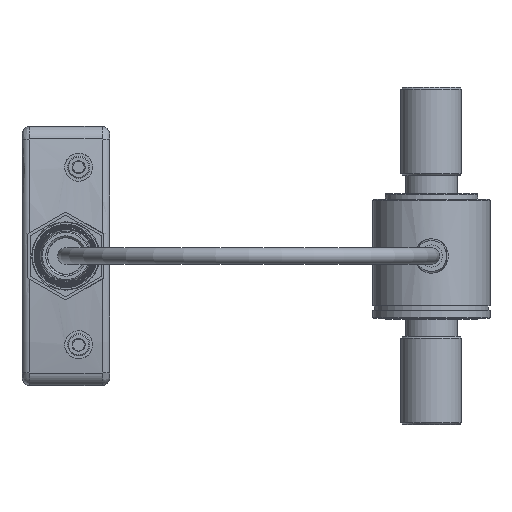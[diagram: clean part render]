
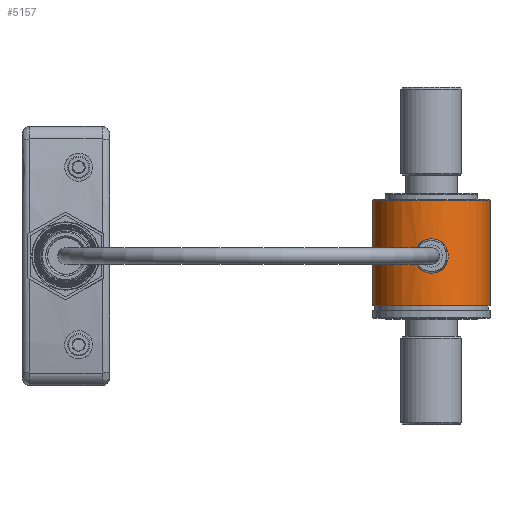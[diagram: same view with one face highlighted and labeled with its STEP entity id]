
A CAD part, left-side view. The second image highlights one B-rep face of the part: STEP entity #5157.
In plain terms, the highlighted cylindrical face has radius 12.205 mm (diameter 24.409 mm), a full revolution.
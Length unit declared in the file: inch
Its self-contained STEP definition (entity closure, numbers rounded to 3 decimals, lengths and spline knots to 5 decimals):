
#149=B_SPLINE_CURVE_WITH_KNOTS('',3,(#7361,#7362,#7363,#7364,#7365,#7366,
#7367,#7368,#7369,#7370,#7371,#7372,#7373,#7374),.UNSPECIFIED.,.F.,.F.,
(4,2,2,2,2,2,4),(0.,0.05595,0.11066,0.16193,
0.21462,0.24901,0.28232),.UNSPECIFIED.);
#150=B_SPLINE_CURVE_WITH_KNOTS('',3,(#7553,#7554,#7555,#7556,#7557,#7558,
#7559,#7560,#7561,#7562,#7563,#7564,#7565,#7566),.UNSPECIFIED.,.F.,.F.,
(4,2,2,2,2,2,4),(0.,0.05595,0.11066,0.16193,
0.21462,0.24901,0.28232),.UNSPECIFIED.);
#414=FACE_BOUND('',#1525,.T.);
#445=LINE('',#7342,#749);
#458=LINE('',#7541,#762);
#470=LINE('',#7636,#774);
#749=VECTOR('',#6019,1.);
#762=VECTOR('',#6076,1.);
#774=VECTOR('',#6162,0.4805);
#1060=CYLINDRICAL_SURFACE('',#5543,0.4805);
#1170=FACE_OUTER_BOUND('',#1524,.T.);
#1524=EDGE_LOOP('',(#3535,#3536,#3537,#3538,#3539));
#1525=EDGE_LOOP('',(#3540,#3541,#3542,#3543));
#1898=CIRCLE('',#5539,0.4805);
#1899=CIRCLE('',#5540,0.4805);
#1901=CIRCLE('',#5544,0.4805);
#2107=VERTEX_POINT('',#7340);
#2108=VERTEX_POINT('',#7341);
#2111=VERTEX_POINT('',#7360);
#2128=VERTEX_POINT('',#7540);
#2147=VERTEX_POINT('',#7626);
#2148=VERTEX_POINT('',#7628);
#2150=VERTEX_POINT('',#7635);
#2602=EDGE_CURVE('',#2107,#2108,#445,.T.);
#2606=EDGE_CURVE('',#2111,#2107,#149,.T.);
#2634=EDGE_CURVE('',#2128,#2111,#458,.T.);
#2636=EDGE_CURVE('',#2108,#2128,#150,.T.);
#2665=EDGE_CURVE('',#2147,#2148,#1898,.T.);
#2666=EDGE_CURVE('',#2148,#2147,#1899,.T.);
#2668=EDGE_CURVE('',#2148,#2150,#470,.T.);
#2669=EDGE_CURVE('',#2150,#2150,#1901,.T.);
#3535=ORIENTED_EDGE('',*,*,#2665,.F.);
#3536=ORIENTED_EDGE('',*,*,#2666,.F.);
#3537=ORIENTED_EDGE('',*,*,#2668,.T.);
#3538=ORIENTED_EDGE('',*,*,#2669,.F.);
#3539=ORIENTED_EDGE('',*,*,#2668,.F.);
#3540=ORIENTED_EDGE('',*,*,#2606,.T.);
#3541=ORIENTED_EDGE('',*,*,#2602,.T.);
#3542=ORIENTED_EDGE('',*,*,#2636,.T.);
#3543=ORIENTED_EDGE('',*,*,#2634,.T.);
#5157=ADVANCED_FACE('',(#1170,#414),#1060,.T.);
#5539=AXIS2_PLACEMENT_3D('',#7629,#6152,#6153);
#5540=AXIS2_PLACEMENT_3D('',#7630,#6154,#6155);
#5543=AXIS2_PLACEMENT_3D('',#7634,#6160,#6161);
#5544=AXIS2_PLACEMENT_3D('',#7637,#6163,#6164);
#6019=DIRECTION('',(0.,0.,-1.));
#6076=DIRECTION('',(0.,0.,1.));
#6152=DIRECTION('center_axis',(0.,0.,
1.));
#6153=DIRECTION('ref_axis',(1.,0.,0.));
#6154=DIRECTION('center_axis',(0.,0.,
1.));
#6155=DIRECTION('ref_axis',(1.,0.,0.));
#6160=DIRECTION('center_axis',(0.,0.,
1.));
#6161=DIRECTION('ref_axis',(-1.,0.,0.));
#6162=DIRECTION('',(0.,0.,-1.));
#6163=DIRECTION('center_axis',(0.,0.,
-1.));
#6164=DIRECTION('ref_axis',(-1.,0.,0.));
#7340=CARTESIAN_POINT('',(-3.85136,32.64431,13.52023));
#7341=CARTESIAN_POINT('',(-3.85136,32.64431,13.37577));
#7342=CARTESIAN_POINT('',(-3.85136,32.64431,13.425));
#7360=CARTESIAN_POINT('',(-3.85136,32.87831,13.52023));
#7361=CARTESIAN_POINT('Ctrl Pts',(-3.85136,32.87831,13.52023));
#7362=CARTESIAN_POINT('Ctrl Pts',(-3.8538,32.8686,13.53596));
#7363=CARTESIAN_POINT('Ctrl Pts',(-3.85669,32.85582,13.54957));
#7364=CARTESIAN_POINT('Ctrl Pts',(-3.86169,32.82598,13.57068));
#7365=CARTESIAN_POINT('Ctrl Pts',(-3.86376,32.80926,13.57815));
#7366=CARTESIAN_POINT('Ctrl Pts',(-3.86592,32.77484,13.58589));
#7367=CARTESIAN_POINT('Ctrl Pts',(-3.86611,32.75766,13.58651));
#7368=CARTESIAN_POINT('Ctrl Pts',(-3.86464,32.7234,13.58133));
#7369=CARTESIAN_POINT('Ctrl Pts',(-3.86296,32.70678,13.57542));
#7370=CARTESIAN_POINT('Ctrl Pts',(-3.85933,32.68193,13.56085));
#7371=CARTESIAN_POINT('Ctrl Pts',(-3.85769,32.67289,13.55391));
#7372=CARTESIAN_POINT('Ctrl Pts',(-3.85443,32.65698,13.53823));
#7373=CARTESIAN_POINT('Ctrl Pts',(-3.85281,32.6501,13.5296));
#7374=CARTESIAN_POINT('Ctrl Pts',(-3.85136,32.64431,13.52023));
#7540=CARTESIAN_POINT('',(-3.85136,32.87831,13.37577));
#7541=CARTESIAN_POINT('',(-3.85136,32.87831,13.425));
#7553=CARTESIAN_POINT('Ctrl Pts',(-3.85136,32.64431,13.37577));
#7554=CARTESIAN_POINT('Ctrl Pts',(-3.8538,32.65402,13.36004));
#7555=CARTESIAN_POINT('Ctrl Pts',(-3.85669,32.66681,13.34643));
#7556=CARTESIAN_POINT('Ctrl Pts',(-3.86169,32.69665,13.32532));
#7557=CARTESIAN_POINT('Ctrl Pts',(-3.86376,32.71336,13.31785));
#7558=CARTESIAN_POINT('Ctrl Pts',(-3.86592,32.74778,13.31011));
#7559=CARTESIAN_POINT('Ctrl Pts',(-3.86611,32.76497,13.30949));
#7560=CARTESIAN_POINT('Ctrl Pts',(-3.86464,32.79922,13.31467));
#7561=CARTESIAN_POINT('Ctrl Pts',(-3.86296,32.81584,13.32058));
#7562=CARTESIAN_POINT('Ctrl Pts',(-3.85933,32.84069,13.33515));
#7563=CARTESIAN_POINT('Ctrl Pts',(-3.85769,32.84974,13.34209));
#7564=CARTESIAN_POINT('Ctrl Pts',(-3.85443,32.86564,13.35777));
#7565=CARTESIAN_POINT('Ctrl Pts',(-3.85281,32.87253,13.3664));
#7566=CARTESIAN_POINT('Ctrl Pts',(-3.85136,32.87831,13.37577));
#7626=CARTESIAN_POINT('',(-3.86582,32.76131,13.907));
#7628=CARTESIAN_POINT('',(-2.90482,32.76131,13.907));
#7629=CARTESIAN_POINT('Origin',(-3.38532,32.76131,13.907));
#7630=CARTESIAN_POINT('Origin',(-3.38532,32.76131,13.907));
#7634=CARTESIAN_POINT('Origin',(-3.38532,32.76131,13.425));
#7635=CARTESIAN_POINT('',(-2.90482,32.76131,13.038));
#7636=CARTESIAN_POINT('',(-2.90482,32.76131,13.425));
#7637=CARTESIAN_POINT('Origin',(-3.38532,32.76131,13.038));
